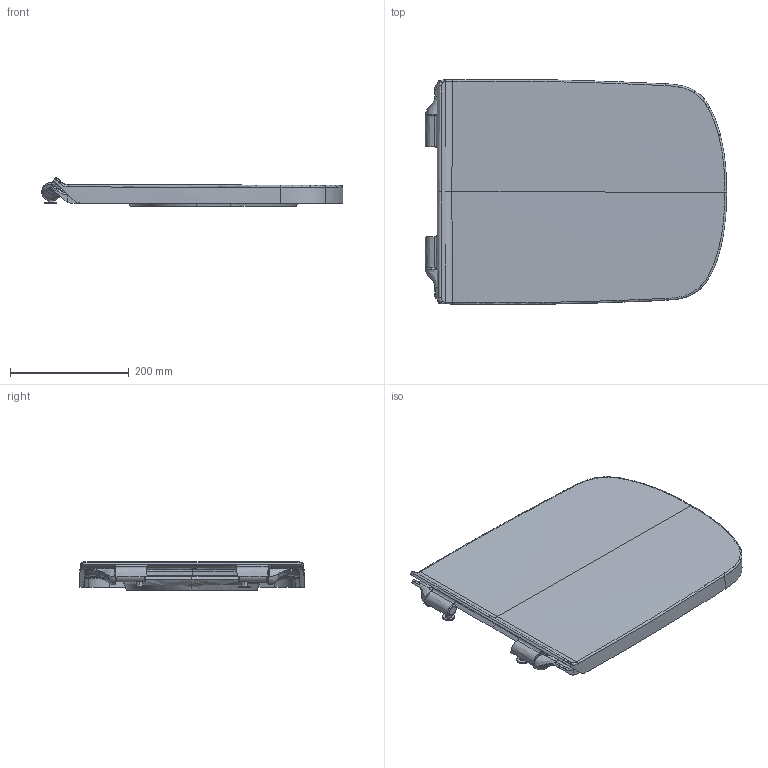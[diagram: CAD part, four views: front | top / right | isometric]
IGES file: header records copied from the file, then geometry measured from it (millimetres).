
Global section: file name: No Iges File Name specified; native system: Autodesk Inventor 2011; preprocessor: AutoDesk Inventor Iges Exporter R2011; author: Administrator; date: 20150525.222419; units: millimetre
Bounding box: 507.49 x 378.92 x 47.85 mm (x, y, z)
Volume: 33616.8 mm3; surface area: 372116.1 mm2
Topology: 2 solids, 2 shells, 192 faces, 4616 edges, 4594 vertices
Faces by surface type: bspline 156, plane 16, cylinder 12, torus 8
